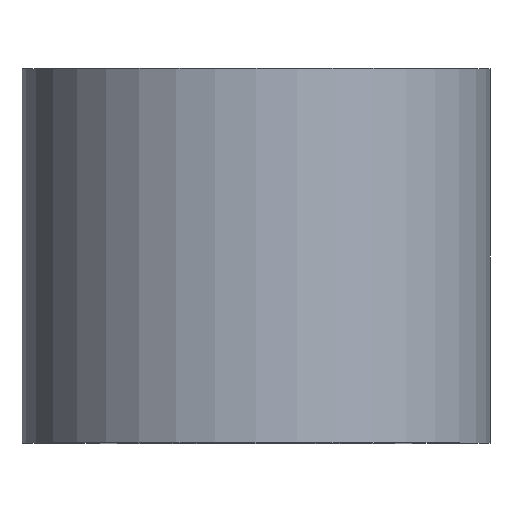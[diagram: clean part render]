
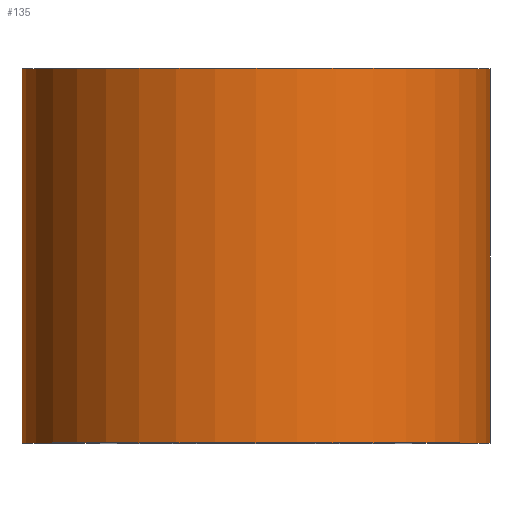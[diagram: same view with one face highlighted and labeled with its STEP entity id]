
A CAD part, top view. The second image highlights one B-rep face of the part: STEP entity #135.
In plain terms, the highlighted cylindrical face has radius 7.5 mm (diameter 15 mm), a partial arc.
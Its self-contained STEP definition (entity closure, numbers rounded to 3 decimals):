
#9 = FACE_OUTER_BOUND ( 'NONE', #204, .T. ) ;
#18 = VERTEX_POINT ( 'NONE', #277 ) ;
#23 = CIRCLE ( 'NONE', #237, 7.5 ) ;
#28 = EDGE_CURVE ( 'NONE', #260, #172, #250, .T. ) ;
#32 = DIRECTION ( 'NONE',  ( 0., 1., 0. ) ) ;
#38 = DIRECTION ( 'NONE',  ( 0., 1., 0. ) ) ;
#43 = CARTESIAN_POINT ( 'NONE',  ( -7.5, 0., 0. ) ) ;
#71 = CYLINDRICAL_SURFACE ( 'NONE', #261, 7.5 ) ;
#76 = EDGE_CURVE ( 'NONE', #18, #172, #169, .T. ) ;
#77 = CARTESIAN_POINT ( 'NONE',  ( 0., 0., 0. ) ) ;
#83 = ORIENTED_EDGE ( 'NONE', *, *, #76, .F. ) ;
#99 = EDGE_CURVE ( 'NONE', #185, #260, #23, .T. ) ;
#100 = LINE ( 'NONE', #43, #265 ) ;
#104 = DIRECTION ( 'NONE',  ( -1., 0., 0. ) ) ;
#107 = DIRECTION ( 'NONE',  ( 0., 1., 0. ) ) ;
#129 = DIRECTION ( 'NONE',  ( 0., 1., 0. ) ) ;
#135 = ADVANCED_FACE ( 'NONE', ( #9 ), #71, .T. ) ;
#161 = ORIENTED_EDGE ( 'NONE', *, *, #99, .T. ) ;
#165 = DIRECTION ( 'NONE',  ( 0., 1., 0. ) ) ;
#168 = AXIS2_PLACEMENT_3D ( 'NONE', #224, #32, #104 ) ;
#169 = CIRCLE ( 'NONE', #168, 7.5 ) ;
#172 = VERTEX_POINT ( 'NONE', #178 ) ;
#178 = CARTESIAN_POINT ( 'NONE',  ( 7.5, 12., 0. ) ) ;
#181 = CARTESIAN_POINT ( 'NONE',  ( 7.5, 0., 0. ) ) ;
#185 = VERTEX_POINT ( 'NONE', #245 ) ;
#196 = VECTOR ( 'NONE', #165, 1000. ) ;
#204 = EDGE_LOOP ( 'NONE', ( #161, #243, #83, #229 ) ) ;
#218 = CARTESIAN_POINT ( 'NONE',  ( 0., 0., 0. ) ) ;
#224 = CARTESIAN_POINT ( 'NONE',  ( 0., 12., 0. ) ) ;
#229 = ORIENTED_EDGE ( 'NONE', *, *, #284, .F. ) ;
#237 = AXIS2_PLACEMENT_3D ( 'NONE', #77, #107, #244 ) ;
#243 = ORIENTED_EDGE ( 'NONE', *, *, #28, .T. ) ;
#244 = DIRECTION ( 'NONE',  ( -1., 0., 0. ) ) ;
#245 = CARTESIAN_POINT ( 'NONE',  ( -7.5, 0., 0. ) ) ;
#250 = LINE ( 'NONE', #299, #196 ) ;
#260 = VERTEX_POINT ( 'NONE', #181 ) ;
#261 = AXIS2_PLACEMENT_3D ( 'NONE', #218, #129, #287 ) ;
#265 = VECTOR ( 'NONE', #38, 1000. ) ;
#277 = CARTESIAN_POINT ( 'NONE',  ( -7.5, 12., 0. ) ) ;
#284 = EDGE_CURVE ( 'NONE', #185, #18, #100, .T. ) ;
#287 = DIRECTION ( 'NONE',  ( -1., 0., 0. ) ) ;
#299 = CARTESIAN_POINT ( 'NONE',  ( 7.5, 0., 0. ) ) ;
